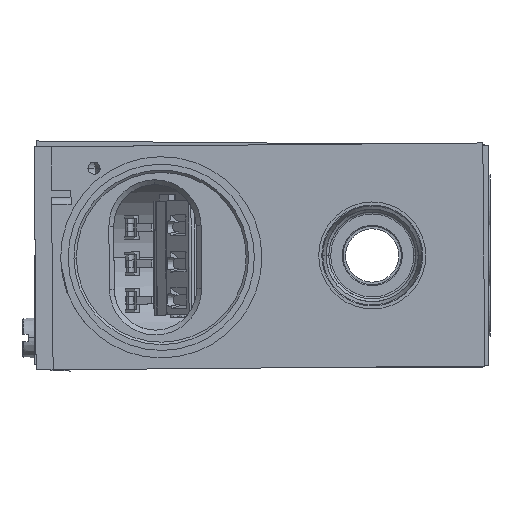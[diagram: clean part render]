
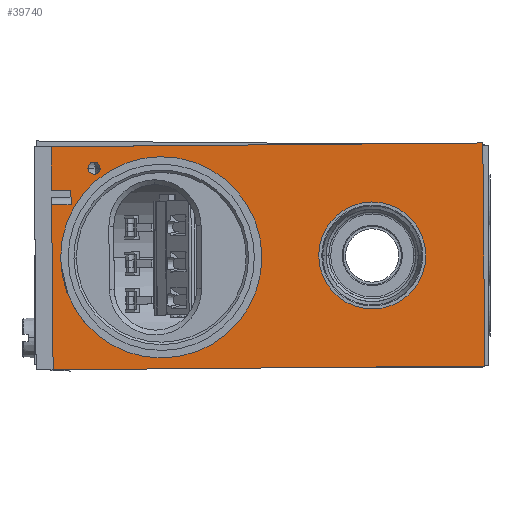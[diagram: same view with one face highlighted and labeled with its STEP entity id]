
A CAD part, left-side view. The second image highlights one B-rep face of the part: STEP entity #39740.
In plain terms, the highlighted planar face has unit normal (-1, 0, 0) as drawn and (0, 0, -1) by its records, which use the part's own axes.
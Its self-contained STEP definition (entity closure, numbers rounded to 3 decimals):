
#31966=DIRECTION('',(0.,1.,0.));
#31967=VECTOR('',#31966,4.);
#31968=CARTESIAN_POINT('',(-11.,38.75,0.));
#31969=LINE('',#31968,#31967);
#32094=DIRECTION('',(-1.,0.,0.));
#32095=VECTOR('',#32094,3.);
#32096=CARTESIAN_POINT('',(-11.,38.75,0.));
#32097=LINE('',#32096,#32095);
#32101=DIRECTION('',(0.,1.,0.));
#32102=VECTOR('',#32101,4.);
#32103=CARTESIAN_POINT('',(-14.,38.75,0.));
#32104=LINE('',#32103,#32102);
#32108=DIRECTION('',(-1.,0.,0.));
#32109=VECTOR('',#32108,9.);
#32110=CARTESIAN_POINT('',(-14.,42.75,0.));
#32111=LINE('',#32110,#32109);
#32115=DIRECTION('',(0.,-1.,0.));
#32116=VECTOR('',#32115,89.);
#32117=CARTESIAN_POINT('',(-23.,42.75,0.));
#32118=LINE('',#32117,#32116);
#32122=DIRECTION('',(1.,0.,0.));
#32123=VECTOR('',#32122,46.);
#32124=CARTESIAN_POINT('',(-23.,-46.25,0.));
#32125=LINE('',#32124,#32123);
#32129=DIRECTION('',(0.,1.,0.));
#32130=VECTOR('',#32129,89.);
#32131=CARTESIAN_POINT('',(23.,-46.25,0.));
#32132=LINE('',#32131,#32130);
#32136=DIRECTION('',(-1.,0.,0.));
#32137=VECTOR('',#32136,34.);
#32138=CARTESIAN_POINT('',(23.,42.75,0.));
#32139=LINE('',#32138,#32137);
#32143=CARTESIAN_POINT('',(0.,20.25,0.));
#32144=DIRECTION('',(0.,0.,-1.));
#32145=DIRECTION('',(0.,1.,0.));
#32146=AXIS2_PLACEMENT_3D('',#32143,#32144,#32145);
#32151=CARTESIAN_POINT('',(0.,20.25,0.));
#32152=DIRECTION('',(0.,0.,-1.));
#32153=DIRECTION('',(0.,-1.,0.));
#32154=AXIS2_PLACEMENT_3D('',#32151,#32152,#32153);
#32159=CARTESIAN_POINT('',(0.,-23.25,0.));
#32160=DIRECTION('',(0.,0.,-1.));
#32161=DIRECTION('',(-1.,0.,0.));
#32162=AXIS2_PLACEMENT_3D('',#32159,#32160,#32161);
#32167=CARTESIAN_POINT('',(0.,-23.25,0.));
#32168=DIRECTION('',(0.,0.,-1.));
#32169=DIRECTION('',(1.,0.,0.));
#32170=AXIS2_PLACEMENT_3D('',#32167,#32168,#32169);
#32175=CARTESIAN_POINT('',(-18.5,33.95,0.));
#32176=DIRECTION('',(0.,0.,-1.));
#32177=DIRECTION('',(1.,0.,0.));
#32178=AXIS2_PLACEMENT_3D('',#32175,#32176,#32177);
#32183=CARTESIAN_POINT('',(-18.5,33.95,0.));
#32184=DIRECTION('',(0.,0.,-1.));
#32185=DIRECTION('',(-1.,0.,0.));
#32186=AXIS2_PLACEMENT_3D('',#32183,#32184,#32185);
#38031=CARTESIAN_POINT('',(23.,42.75,0.));
#38033=VERTEX_POINT('',#38031);
#38034=CARTESIAN_POINT('',(23.,-46.25,0.));
#38035=VERTEX_POINT('',#38034);
#38039=CARTESIAN_POINT('',(-11.,42.75,0.));
#38041=VERTEX_POINT('',#38039);
#38054=CARTESIAN_POINT('',(-11.,38.75,0.));
#38055=VERTEX_POINT('',#38054);
#38062=CARTESIAN_POINT('',(-23.,-46.25,0.));
#38063=VERTEX_POINT('',#38062);
#38064=CARTESIAN_POINT('',(-23.,42.75,0.));
#38065=VERTEX_POINT('',#38064);
#38070=CARTESIAN_POINT('',(-14.,38.75,0.));
#38071=VERTEX_POINT('',#38070);
#38072=CARTESIAN_POINT('',(-14.,42.75,0.));
#38073=VERTEX_POINT('',#38072);
#38074=CARTESIAN_POINT('',(0.,41.,0.));
#38075=CARTESIAN_POINT('',(0.,-0.5,0.));
#38076=VERTEX_POINT('',#38074);
#38077=VERTEX_POINT('',#38075);
#38078=CARTESIAN_POINT('',(-11.03,-23.25,0.));
#38079=CARTESIAN_POINT('',(11.03,-23.25,0.));
#38080=VERTEX_POINT('',#38078);
#38081=VERTEX_POINT('',#38079);
#38082=CARTESIAN_POINT('',(-17.25,33.95,0.));
#38083=CARTESIAN_POINT('',(-19.75,33.95,0.));
#38084=VERTEX_POINT('',#38082);
#38085=VERTEX_POINT('',#38083);
#39704=CARTESIAN_POINT('',(0.,0.,0.));
#39705=DIRECTION('',(0.,0.,1.));
#39706=DIRECTION('',(1.,0.,0.));
#39707=AXIS2_PLACEMENT_3D('',#39704,#39705,#39706);
#39708=PLANE('',#39707);
#39710=ORIENTED_EDGE('',*,*,#39709,.T.);
#39712=ORIENTED_EDGE('',*,*,#39711,.T.);
#39714=ORIENTED_EDGE('',*,*,#39713,.T.);
#39715=ORIENTED_EDGE('',*,*,#39666,.T.);
#39716=ORIENTED_EDGE('',*,*,#39689,.T.);
#39717=ORIENTED_EDGE('',*,*,#39510,.T.);
#39718=ORIENTED_EDGE('',*,*,#39536,.T.);
#39719=ORIENTED_EDGE('',*,*,#39575,.F.);
#39720=EDGE_LOOP('',(#39710,#39712,#39714,#39715,#39716,#39717,#39718,#39719));
#39721=FACE_OUTER_BOUND('',#39720,.F.);
#39723=ORIENTED_EDGE('',*,*,#39722,.T.);
#39725=ORIENTED_EDGE('',*,*,#39724,.T.);
#39726=EDGE_LOOP('',(#39723,#39725));
#39727=FACE_BOUND('',#39726,.F.);
#39729=ORIENTED_EDGE('',*,*,#39728,.T.);
#39731=ORIENTED_EDGE('',*,*,#39730,.T.);
#39732=EDGE_LOOP('',(#39729,#39731));
#39733=FACE_BOUND('',#39732,.F.);
#39735=ORIENTED_EDGE('',*,*,#39734,.T.);
#39737=ORIENTED_EDGE('',*,*,#39736,.T.);
#39738=EDGE_LOOP('',(#39735,#39737));
#39739=FACE_BOUND('',#39738,.F.);
#32147=CIRCLE('',#32146,20.75);
#32155=CIRCLE('',#32154,20.75);
#32163=CIRCLE('',#32162,11.03);
#32171=CIRCLE('',#32170,11.03);
#32179=CIRCLE('',#32178,1.25);
#32187=CIRCLE('',#32186,1.25);
#39510=EDGE_CURVE('',#38035,#38033,#32132,.T.);
#39536=EDGE_CURVE('',#38033,#38041,#32139,.T.);
#39575=EDGE_CURVE('',#38055,#38041,#31969,.T.);
#39666=EDGE_CURVE('',#38065,#38063,#32118,.T.);
#39689=EDGE_CURVE('',#38063,#38035,#32125,.T.);
#39709=EDGE_CURVE('',#38055,#38071,#32097,.T.);
#39711=EDGE_CURVE('',#38071,#38073,#32104,.T.);
#39713=EDGE_CURVE('',#38073,#38065,#32111,.T.);
#39722=EDGE_CURVE('',#38076,#38077,#32147,.T.);
#39724=EDGE_CURVE('',#38077,#38076,#32155,.T.);
#39728=EDGE_CURVE('',#38080,#38081,#32163,.T.);
#39730=EDGE_CURVE('',#38081,#38080,#32171,.T.);
#39734=EDGE_CURVE('',#38084,#38085,#32179,.T.);
#39736=EDGE_CURVE('',#38085,#38084,#32187,.T.);
#39740=ADVANCED_FACE('',(#39721,#39727,#39733,#39739),#39708,.F.);
